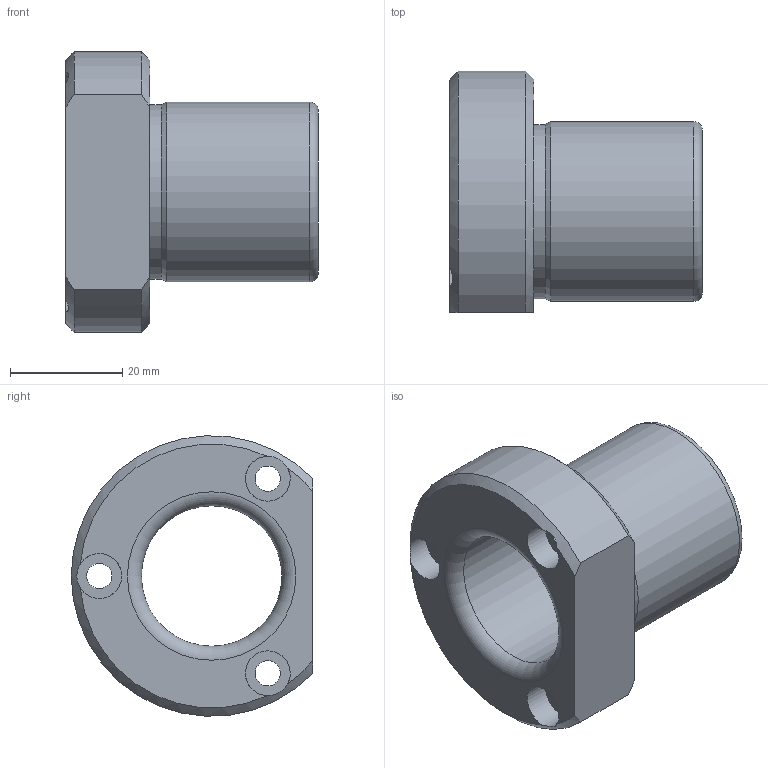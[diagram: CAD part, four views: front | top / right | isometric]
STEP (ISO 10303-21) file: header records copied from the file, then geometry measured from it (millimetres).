
FILE_DESCRIPTION(/* description */ ('Impex Ready, www.impex-ready.pl'),/* implementation_level */ '2;1');
FILE_NAME(/* name */ 'C:\Users\VIKKY\Nextcloud\SM\projekt 10 - części na stronę internetową\Pliki_3D_new\283 Tuleje B5AG\283 B5AG_STEP\B5AG19-5.ipt.step',/* time_stamp */ '2021-12-20T14:09:49+01:00',/* author */ ('SM'),/* organization */ (''),/* preprocessor_version */ 'ST-DEVELOPER v18.1',/* originating_system */ 'Autodesk Inventor 2021',/* authorisation */ '');
FILE_SCHEMA (('AUTOMOTIVE_DESIGN { 1 0 10303 214 3 1 1 }'));
Length unit declared in the file: millimetre
Products named in the file (1): B5AG19-5
Bounding box: 45 x 43 x 49.95 mm (x, y, z)
Volume: 27210.8 mm3; surface area: 11787.8 mm2
Topology: 1 solids, 1 shells, 23 faces, 58 edges, 38 vertices
Faces by surface type: cylinder 10, plane 7, torus 3, cone 3
Full cylindrical faces by diameter (mm): 4.5 x3, 8 x3, 25 x1, 31 x1, 32 x1
Entity records: 840 total; most frequent: CARTESIAN_POINT 170, DIRECTION 134, ORIENTED_EDGE 116, AXIS2_PLACEMENT_3D 60, EDGE_CURVE 58, VERTEX_POINT 38, CIRCLE 36, EDGE_LOOP 32
